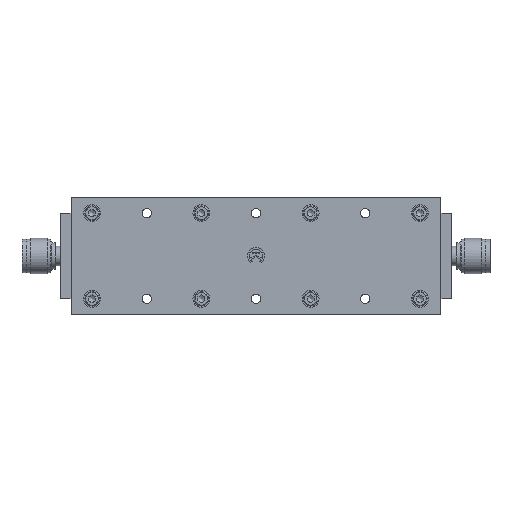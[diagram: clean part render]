
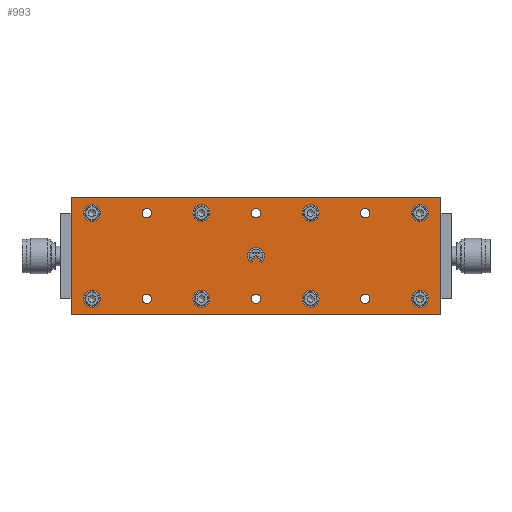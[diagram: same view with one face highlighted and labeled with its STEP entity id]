
A CAD part, top view. The second image highlights one B-rep face of the part: STEP entity #993.
In plain terms, the highlighted planar face has unit normal (0, 0, 1).
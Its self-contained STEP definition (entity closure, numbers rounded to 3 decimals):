
#993=ADVANCED_FACE('',(#2016,#2018,#2020,#2022,#2024,#2026,#2028,#2030,#2032,#2034,
#2036,#2038,#2040,#2042,#2044,#2046),#2048,.T.);
#2016=FACE_BOUND('',#2017,.T.);
#2017=EDGE_LOOP('',(#4219,#4220,#4221,#4222));
#2018=FACE_BOUND('',#2019,.T.);
#2019=EDGE_LOOP('',(#4223,#4224,#4225,#4226,#4227,#4228,#4229));
#2020=FACE_BOUND('',#2021,.T.);
#2021=EDGE_LOOP('',(#4230));
#2022=FACE_BOUND('',#2023,.T.);
#2023=EDGE_LOOP('',(#4231));
#2024=FACE_BOUND('',#2025,.T.);
#2025=EDGE_LOOP('',(#4232));
#2026=FACE_BOUND('',#2027,.T.);
#2027=EDGE_LOOP('',(#4233));
#2028=FACE_BOUND('',#2029,.T.);
#2029=EDGE_LOOP('',(#4234));
#2030=FACE_BOUND('',#2031,.T.);
#2031=EDGE_LOOP('',(#4235));
#2032=FACE_BOUND('',#2033,.T.);
#2033=EDGE_LOOP('',(#4236));
#2034=FACE_BOUND('',#2035,.T.);
#2035=EDGE_LOOP('',(#4237));
#2036=FACE_BOUND('',#2037,.T.);
#2037=EDGE_LOOP('',(#4238));
#2038=FACE_BOUND('',#2039,.T.);
#2039=EDGE_LOOP('',(#4239));
#2040=FACE_BOUND('',#2041,.T.);
#2041=EDGE_LOOP('',(#4240));
#2042=FACE_BOUND('',#2043,.T.);
#2043=EDGE_LOOP('',(#4241));
#2044=FACE_BOUND('',#2045,.T.);
#2045=EDGE_LOOP('',(#4242));
#2046=FACE_BOUND('',#2047,.T.);
#2047=EDGE_LOOP('',(#4243));
#2048=PLANE('',#2049);
#2049=AXIS2_PLACEMENT_3D('',#2050,#2051,#2052);
#2050=CARTESIAN_POINT('',(-35.,-110.,12.5));
#2051=DIRECTION('',(0.,0.,1.));
#2052=DIRECTION('',(1.,0.,0.));
#4219=ORIENTED_EDGE('',*,*,#5016,.F.);
#4220=ORIENTED_EDGE('',*,*,#5017,.T.);
#4221=ORIENTED_EDGE('',*,*,#5018,.T.);
#4222=ORIENTED_EDGE('',*,*,#5019,.F.);
#4223=ORIENTED_EDGE('',*,*,#5020,.T.);
#4224=ORIENTED_EDGE('',*,*,#5021,.T.);
#4225=ORIENTED_EDGE('',*,*,#5022,.T.);
#4226=ORIENTED_EDGE('',*,*,#5023,.T.);
#4227=ORIENTED_EDGE('',*,*,#5024,.T.);
#4228=ORIENTED_EDGE('',*,*,#5025,.T.);
#4229=ORIENTED_EDGE('',*,*,#5026,.T.);
#4230=ORIENTED_EDGE('',*,*,#5027,.T.);
#4231=ORIENTED_EDGE('',*,*,#5028,.T.);
#4232=ORIENTED_EDGE('',*,*,#5029,.T.);
#4233=ORIENTED_EDGE('',*,*,#5030,.T.);
#4234=ORIENTED_EDGE('',*,*,#5031,.T.);
#4235=ORIENTED_EDGE('',*,*,#5032,.T.);
#4236=ORIENTED_EDGE('',*,*,#5033,.T.);
#4237=ORIENTED_EDGE('',*,*,#5034,.T.);
#4238=ORIENTED_EDGE('',*,*,#5035,.T.);
#4239=ORIENTED_EDGE('',*,*,#5036,.T.);
#4240=ORIENTED_EDGE('',*,*,#5037,.T.);
#4241=ORIENTED_EDGE('',*,*,#5038,.T.);
#4242=ORIENTED_EDGE('',*,*,#5039,.T.);
#4243=ORIENTED_EDGE('',*,*,#5040,.T.);
#5016=EDGE_CURVE('',#5568,#5569,#5570,.T.);
#5017=EDGE_CURVE('',#5568,#5571,#5572,.T.);
#5018=EDGE_CURVE('',#5571,#5573,#5574,.T.);
#5019=EDGE_CURVE('',#5569,#5573,#5575,.T.);
#5020=EDGE_CURVE('',#5576,#5577,#5578,.F.);
#5021=EDGE_CURVE('',#5577,#5579,#5580,.F.);
#5022=EDGE_CURVE('',#5579,#5581,#5582,.F.);
#5023=EDGE_CURVE('',#5581,#5583,#5584,.F.);
#5024=EDGE_CURVE('',#5583,#5585,#5586,.F.);
#5025=EDGE_CURVE('',#5585,#5587,#5588,.F.);
#5026=EDGE_CURVE('',#5587,#5576,#5589,.F.);
#5027=EDGE_CURVE('',#5590,#5590,#5591,.F.);
#5028=EDGE_CURVE('',#5592,#5592,#5593,.F.);
#5029=EDGE_CURVE('',#5594,#5594,#5595,.F.);
#5030=EDGE_CURVE('',#5596,#5596,#5597,.F.);
#5031=EDGE_CURVE('',#5598,#5598,#5599,.F.);
#5032=EDGE_CURVE('',#5600,#5600,#5601,.F.);
#5033=EDGE_CURVE('',#5602,#5602,#5603,.F.);
#5034=EDGE_CURVE('',#5604,#5604,#5605,.F.);
#5035=EDGE_CURVE('',#5606,#5606,#5607,.F.);
#5036=EDGE_CURVE('',#5608,#5608,#5609,.F.);
#5037=EDGE_CURVE('',#5610,#5610,#5611,.F.);
#5038=EDGE_CURVE('',#5612,#5612,#5613,.F.);
#5039=EDGE_CURVE('',#5614,#5614,#5615,.F.);
#5040=EDGE_CURVE('',#5616,#5616,#5617,.F.);
#5568=VERTEX_POINT('',#6691);
#5569=VERTEX_POINT('',#6692);
#5570=LINE('',#6693,#6694);
#5571=VERTEX_POINT('',#6696);
#5572=LINE('',#6697,#6698);
#5573=VERTEX_POINT('',#6700);
#5574=LINE('',#6701,#6702);
#5575=LINE('',#6704,#6705);
#5576=VERTEX_POINT('',#6707);
#5577=VERTEX_POINT('',#6708);
#5578=CIRCLE('',#6709,4.);
#5579=VERTEX_POINT('',#6713);
#5580=LINE('',#6714,#6715);
#5581=VERTEX_POINT('',#6717);
#5582=CIRCLE('',#6718,5.);
#5583=VERTEX_POINT('',#6722);
#5584=LINE('',#6723,#6724);
#5585=VERTEX_POINT('',#6726);
#5586=CIRCLE('',#6727,4.);
#5587=VERTEX_POINT('',#6731);
#5588=LINE('',#6732,#6733);
#5589=LINE('',#6735,#6736);
#5590=VERTEX_POINT('',#6738);
#5591=CIRCLE('',#6739,5.);
#5592=VERTEX_POINT('',#6743);
#5593=CIRCLE('',#6744,5.);
#5594=VERTEX_POINT('',#6748);
#5595=CIRCLE('',#6749,5.);
#5596=VERTEX_POINT('',#6753);
#5597=CIRCLE('',#6754,5.);
#5598=VERTEX_POINT('',#6758);
#5599=CIRCLE('',#6759,5.);
#5600=VERTEX_POINT('',#6763);
#5601=CIRCLE('',#6764,5.);
#5602=VERTEX_POINT('',#6768);
#5603=CIRCLE('',#6769,5.);
#5604=VERTEX_POINT('',#6773);
#5605=CIRCLE('',#6774,5.);
#5606=VERTEX_POINT('',#6778);
#5607=CIRCLE('',#6779,2.75);
#5608=VERTEX_POINT('',#6783);
#5609=CIRCLE('',#6784,2.75);
#5610=VERTEX_POINT('',#6788);
#5611=CIRCLE('',#6789,2.75);
#5612=VERTEX_POINT('',#6793);
#5613=CIRCLE('',#6794,2.75);
#5614=VERTEX_POINT('',#6798);
#5615=CIRCLE('',#6799,2.75);
#5616=VERTEX_POINT('',#6803);
#5617=CIRCLE('',#6804,2.75);
#6691=CARTESIAN_POINT('',(-34.9,-109.9,12.5));
#6692=CARTESIAN_POINT('',(-34.9,109.9,12.5));
#6693=CARTESIAN_POINT('',(-34.9,-109.9,12.5));
#6694=VECTOR('',#6695,1.);
#6695=DIRECTION('',(0.,1.,0.));
#6696=CARTESIAN_POINT('',(34.9,-109.9,12.5));
#6697=CARTESIAN_POINT('',(-34.9,-109.9,12.5));
#6698=VECTOR('',#6699,1.);
#6699=DIRECTION('',(1.,0.,0.));
#6700=CARTESIAN_POINT('',(34.9,109.9,12.5));
#6701=CARTESIAN_POINT('',(34.9,-109.9,12.5));
#6702=VECTOR('',#6703,1.);
#6703=DIRECTION('',(0.,1.,0.));
#6704=CARTESIAN_POINT('',(-34.9,109.9,12.5));
#6705=VECTOR('',#6706,1.);
#6706=DIRECTION('',(1.,0.,0.));
#6707=CARTESIAN_POINT('',(-2.417,3.187,12.5));
#6708=CARTESIAN_POINT('',(-3.345,2.194,12.5));
#6709=AXIS2_PLACEMENT_3D('',#6710,#6711,#6712);
#6710=CARTESIAN_POINT('',(0.,0.,12.5));
#6711=DIRECTION('',(0.,0.,-1.));
#6712=DIRECTION('',(-0.836,0.548,0.));
#6713=CARTESIAN_POINT('',(-3.891,3.14,12.5));
#6714=CARTESIAN_POINT('',(-3.891,3.14,12.5));
#6715=VECTOR('',#6716,1.);
#6716=DIRECTION('',(0.5,-0.866,0.));
#6717=CARTESIAN_POINT('',(-3.891,-3.14,12.5));
#6718=AXIS2_PLACEMENT_3D('',#6719,#6720,#6721);
#6719=CARTESIAN_POINT('',(0.,0.,12.5));
#6720=DIRECTION('',(0.,0.,1.));
#6721=DIRECTION('',(-0.778,-0.628,0.));
#6722=CARTESIAN_POINT('',(-3.345,-2.194,12.5));
#6723=CARTESIAN_POINT('',(-3.345,-2.194,12.5));
#6724=VECTOR('',#6725,1.);
#6725=DIRECTION('',(-0.5,-0.866,0.));
#6726=CARTESIAN_POINT('',(-2.417,-3.187,12.5));
#6727=AXIS2_PLACEMENT_3D('',#6728,#6729,#6730);
#6728=CARTESIAN_POINT('',(0.,0.,12.5));
#6729=DIRECTION('',(0.,0.,-1.));
#6730=DIRECTION('',(-0.604,-0.797,0.));
#6731=CARTESIAN_POINT('',(-0.577,0.,12.5));
#6732=CARTESIAN_POINT('',(-0.577,0.,12.5));
#6733=VECTOR('',#6734,1.);
#6734=DIRECTION('',(-0.5,-0.866,0.));
#6735=CARTESIAN_POINT('',(-2.417,3.187,12.5));
#6736=VECTOR('',#6737,1.);
#6737=DIRECTION('',(0.5,-0.866,0.));
#6738=CARTESIAN_POINT('',(20.5,-97.5,12.5));
#6739=AXIS2_PLACEMENT_3D('',#6740,#6741,#6742);
#6740=CARTESIAN_POINT('',(25.5,-97.5,12.5));
#6741=DIRECTION('',(0.,0.,1.));
#6742=DIRECTION('',(-1.,0.,0.));
#6743=CARTESIAN_POINT('',(-30.5,-97.5,12.5));
#6744=AXIS2_PLACEMENT_3D('',#6745,#6746,#6747);
#6745=CARTESIAN_POINT('',(-25.5,-97.5,12.5));
#6746=DIRECTION('',(0.,0.,1.));
#6747=DIRECTION('',(-1.,0.,0.));
#6748=CARTESIAN_POINT('',(-30.5,-32.5,12.5));
#6749=AXIS2_PLACEMENT_3D('',#6750,#6751,#6752);
#6750=CARTESIAN_POINT('',(-25.5,-32.5,12.5));
#6751=DIRECTION('',(0.,0.,1.));
#6752=DIRECTION('',(-1.,0.,0.));
#6753=CARTESIAN_POINT('',(20.5,-32.5,12.5));
#6754=AXIS2_PLACEMENT_3D('',#6755,#6756,#6757);
#6755=CARTESIAN_POINT('',(25.5,-32.5,12.5));
#6756=DIRECTION('',(0.,0.,1.));
#6757=DIRECTION('',(-1.,0.,0.));
#6758=CARTESIAN_POINT('',(-30.5,32.5,12.5));
#6759=AXIS2_PLACEMENT_3D('',#6760,#6761,#6762);
#6760=CARTESIAN_POINT('',(-25.5,32.5,12.5));
#6761=DIRECTION('',(0.,0.,1.));
#6762=DIRECTION('',(-1.,0.,0.));
#6763=CARTESIAN_POINT('',(20.5,32.5,12.5));
#6764=AXIS2_PLACEMENT_3D('',#6765,#6766,#6767);
#6765=CARTESIAN_POINT('',(25.5,32.5,12.5));
#6766=DIRECTION('',(0.,0.,1.));
#6767=DIRECTION('',(-1.,0.,0.));
#6768=CARTESIAN_POINT('',(20.5,97.5,12.5));
#6769=AXIS2_PLACEMENT_3D('',#6770,#6771,#6772);
#6770=CARTESIAN_POINT('',(25.5,97.5,12.5));
#6771=DIRECTION('',(0.,0.,1.));
#6772=DIRECTION('',(-1.,0.,0.));
#6773=CARTESIAN_POINT('',(-30.5,97.5,12.5));
#6774=AXIS2_PLACEMENT_3D('',#6775,#6776,#6777);
#6775=CARTESIAN_POINT('',(-25.5,97.5,12.5));
#6776=DIRECTION('',(0.,0.,1.));
#6777=DIRECTION('',(-1.,0.,0.));
#6778=CARTESIAN_POINT('',(-28.25,65.,12.5));
#6779=AXIS2_PLACEMENT_3D('',#6780,#6781,#6782);
#6780=CARTESIAN_POINT('',(-25.5,65.,12.5));
#6781=DIRECTION('',(0.,0.,1.));
#6782=DIRECTION('',(-1.,0.,0.));
#6783=CARTESIAN_POINT('',(22.75,65.,12.5));
#6784=AXIS2_PLACEMENT_3D('',#6785,#6786,#6787);
#6785=CARTESIAN_POINT('',(25.5,65.,12.5));
#6786=DIRECTION('',(0.,0.,1.));
#6787=DIRECTION('',(-1.,0.,0.));
#6788=CARTESIAN_POINT('',(-28.25,0.,12.5));
#6789=AXIS2_PLACEMENT_3D('',#6790,#6791,#6792);
#6790=CARTESIAN_POINT('',(-25.5,0.,12.5));
#6791=DIRECTION('',(0.,0.,1.));
#6792=DIRECTION('',(-1.,0.,0.));
#6793=CARTESIAN_POINT('',(22.75,0.,12.5));
#6794=AXIS2_PLACEMENT_3D('',#6795,#6796,#6797);
#6795=CARTESIAN_POINT('',(25.5,0.,12.5));
#6796=DIRECTION('',(0.,0.,1.));
#6797=DIRECTION('',(-1.,0.,0.));
#6798=CARTESIAN_POINT('',(-28.25,-65.,12.5));
#6799=AXIS2_PLACEMENT_3D('',#6800,#6801,#6802);
#6800=CARTESIAN_POINT('',(-25.5,-65.,12.5));
#6801=DIRECTION('',(0.,0.,1.));
#6802=DIRECTION('',(-1.,0.,0.));
#6803=CARTESIAN_POINT('',(22.75,-65.,12.5));
#6804=AXIS2_PLACEMENT_3D('',#6805,#6806,#6807);
#6805=CARTESIAN_POINT('',(25.5,-65.,12.5));
#6806=DIRECTION('',(0.,0.,1.));
#6807=DIRECTION('',(-1.,0.,0.));
